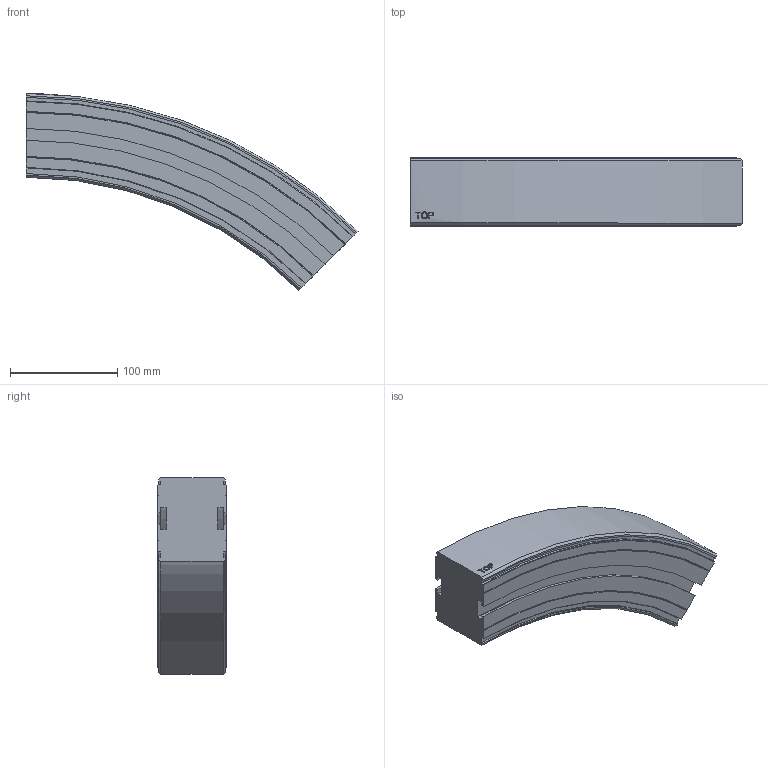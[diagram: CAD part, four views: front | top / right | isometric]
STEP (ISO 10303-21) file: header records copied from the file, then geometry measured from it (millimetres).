
FILE_DESCRIPTION((''),'2;1');
FILE_NAME('C:\Vault Klient\Projekt\Koncept konstruktion\Serie 620 Balk\620-5620_DOWN.stp','2009-11-26T15:37:48',('Mathias'),(''),'Autodesk Inventor 2010','Autodesk Inventor 2010','');
FILE_SCHEMA(('AUTOMOTIVE_DESIGN { 1 0 10303 214 1 1 1 1 }'));
Length unit declared in the file: millimetre
Products named in the file (1): 620-5620_DOWN
Bounding box: 309.71 x 64 x 183.44 mm (x, y, z)
Volume: 1457355.2 mm3; surface area: 122346.5 mm2
Topology: 1 solids, 1 shells, 93 faces, 258 edges, 172 vertices
Faces by surface type: plane 40, cylinder 23, bspline 14, cone 12, torus 4
Entity records: 3397 total; most frequent: CARTESIAN_POINT 962, ORIENTED_EDGE 516, DIRECTION 472, EDGE_CURVE 258, VERTEX_POINT 172, AXIS2_PLACEMENT_3D 162, VECTOR 148, LINE 148
